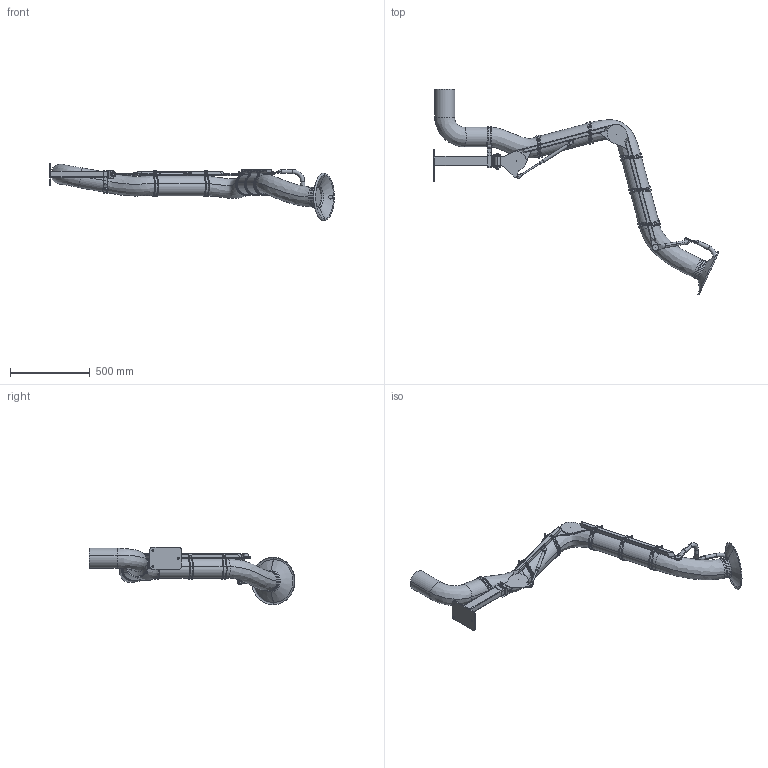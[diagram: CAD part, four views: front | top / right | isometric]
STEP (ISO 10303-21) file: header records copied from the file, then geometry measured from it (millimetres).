
FILE_DESCRIPTION((''),'2;1');
FILE_NAME('PSR_2000-125_EXC','2022-10-04T11:31:55',('Tomas Bellgran'),(''),'CREO PARAMETRIC BY PTC INC, 2018260','CREO PARAMETRIC BY PTC INC, 2018260','');
FILE_SCHEMA(('AUTOMOTIVE_DESIGN { 1 0 10303 214 1 1 1 1 }'));
Length unit declared in the file: millimetre
Products named in the file (36): 141554; 141580; 141581; 122701; 141512; 141556; 141582; 141587; 141522; 121391; 131150; 139381; 131151; 131171; 144356; 141589; 134343_AF0; G_P136_WELD-REF; 141590; 122717_LIGHT; 120127_COMPL_LIGHT; 130315; ROD_STAB_8-160-REF; 131095; 130320_AF2; 131145; 139635; 139656; 139614; 139630; 141631; 124460; 107522-11; 121000_LIGHT; 107522-20; PSR_2000-125_EXC
Assembly tree (51 placements, depth 3):
  PSR_2000-125_EXC
    141512
      141554
      141580
      141581
      122701
    141522
      141556
      141582
      141587
    121391  x4
    131150
    131171
      139381
      131151
    144356  x2
    141590
      141589
      134343_AF0
      G_P136_WELD-REF
    122717_LIGHT
    120127_COMPL_LIGHT
    130320_AF2
      130315
      ROD_STAB_8-160-REF
      131095  x2
    131145  x2
    139630
      139635  x3
      139656
      139614
    141631
    124460  x5
    107522-11  x5
    121000_LIGHT
    107522-20
Bounding box: 1785.47 x 1289.27 x 362.95 mm (x, y, z)
Volume: 33025569.9 mm3; surface area: 1858009.6 mm2
Topology: 45 solids, 45 shells, 1076 faces, 2557 edges, 1572 vertices
Faces by surface type: plane 386, cylinder 335, bspline 218, torus 70, cone 42, extrusion 23, sphere 2
Entity records: 40235 total; most frequent: CARTESIAN_POINT 15188, DIRECTION 3139, ORIENTED_EDGE 2954, PRESENTATION_STYLE_ASSIGNMENT 2067, STYLED_ITEM 2040, CURVE_STYLE 1492, EDGE_CURVE 1477, AXIS2_PLACEMENT_3D 1224
